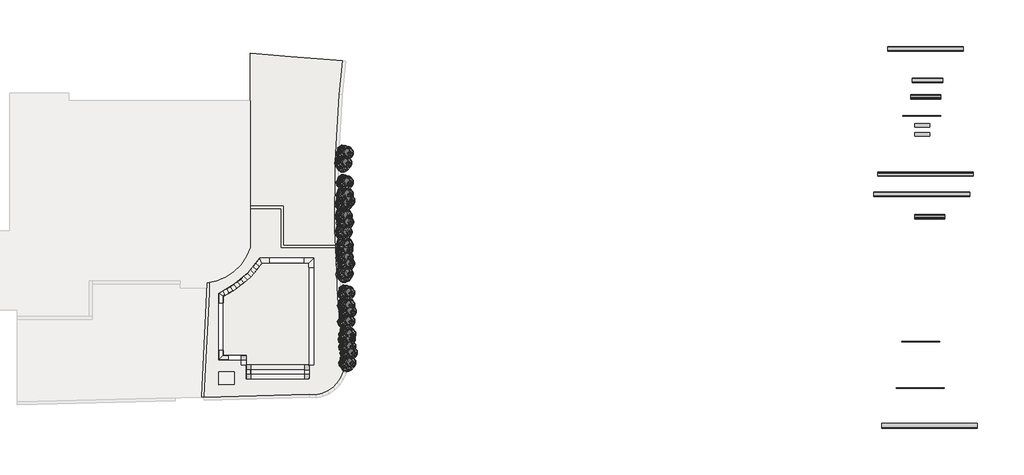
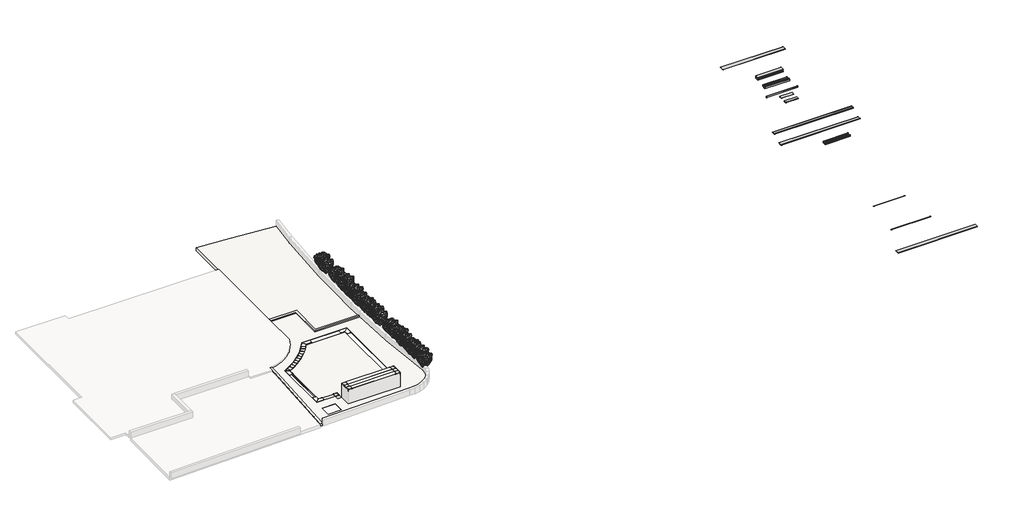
# One storey, part 2 of 2: 36 slabs, 23 geographic elements, 22 proxies.
"""IFC4 building model written with IfcOpenShell, lengths in millimetres."""

from ifc_helpers import new_model, si_unit, point, frame, frame_2d, origin, place, context, project, spatial, polyline, circle_curve, trimmed, segment, composite_curve, outline, extrude, transform, mapped, element, save
from components import generic_models_fd3dc37b, generic_models_5b7ab967, generic_models_2f38e3b8, generic_models_71dcb820, generic_models_0cd6d4ad, generic_models_4fe02839, generic_models_60fd4de7, generic_models_51e0f152, generic_models_03d70148, generic_models_17735d4e, generic_models_f22ee03e, generic_models_8f0458ef, generic_models_db3a6eff, generic_models_d2bb3819, generic_models_d1a6618e, generic_models_a93da772, enscape_assetdefinition_bush_4_enscape_assetdefinition_bush_55d6cc23, slab_9a2c1d77, slab_ec1b78f0, slab_49bdcff0, slab_60ad5168, slab_b6999f09, slab_72731314, slab_92a56c09, slab_0bdd3b43, slab_b8a3eb35, slab_b0dec1d6, slab_325f490a, slab_ac410272, slab_8398dfb0, slab_20f1a7c6

model = new_model("IFC4")

# Units and contexts
model_context = context("Model", 3, world=origin())
ifc_project = project(units=[si_unit("LENGTHUNIT", "METRE", prefix="MILLI")], contexts=[model_context])

# Site, building, storey
site = spatial("IfcSite", under=ifc_project)
building = spatial("IfcBuilding", under=site)
storey = spatial("IfcBuildingStorey", under=building, Name="1_NPlaya", Elevation=0.0)

# Proxies
placement = place(None, origin())
generic_models_shape = generic_models_fd3dc37b(model_context)
element("IfcBuildingElementProxy", 1, Name="ROSA GRES_DL1 (corte) : Pieza DL1_Serena_Ocra_Anti-Slip", ObjectType="ROSA GRES_DL1 (corte) : Pieza DL1_Serena_Ocra_Anti-Slip", at=placement, inside=storey, context=model_context, shape_type="MappedRepresentation", body=[
    mapped(generic_models_shape, transform((5141.0895909, 7278.3154249, -38.0), x_axis=(0.0, 1.0, 0.0), y_axis=(-1.0, 0.0, 0.0), z_axis=(0.0, 0.0, 1.0))),
])
element("IfcBuildingElementProxy", 2, Name="ROSA GRES_DL1 (corte) : Pieza DL1_Serena_Ocra_Anti-Slip", ObjectType="ROSA GRES_DL1 (corte) : Pieza DL1_Serena_Ocra_Anti-Slip", at=placement, inside=storey, context=model_context, shape_type="MappedRepresentation", body=[
    mapped(generic_models_shape, transform((5449.9020909, 6945.0654249, 1162.0), x_axis=(-1.0, 0.0, 0.0), y_axis=(0.0, -1.0, 0.0), z_axis=(0.0, 0.0, 1.0))),
])
element("IfcBuildingElementProxy", 3, Name="ROSA GRES_DL1 (corte) : Pieza DL1_Serena_Ocra_Anti-Slip", ObjectType="ROSA GRES_DL1 (corte) : Pieza DL1_Serena_Ocra_Anti-Slip", at=placement, inside=storey, context=model_context, shape_type="MappedRepresentation", body=[
    mapped(generic_models_shape, transform((5132.8708409, 6362.1965187, 1162.0), x_axis=(0.0, -1.0, 0.0), y_axis=(1.0, 0.0, 0.0), z_axis=(0.0, 0.0, 1.0))),
])
generic_models_2_shape = generic_models_5b7ab967(model_context)
element("IfcBuildingElementProxy", 4, Name="ROSA GRES_DL1 (corte) : Pieza DL1_Serena_Ocra_Anti-Slip", ObjectType="ROSA GRES_DL1 (corte) : Pieza DL1_Serena_Ocra_Anti-Slip", at=placement, inside=storey, context=model_context, shape_type="MappedRepresentation", body=[
    mapped(generic_models_2_shape, transform((8973.6520909, 6945.0654249, 1162.0), x_axis=(1.0, 0.0, 0.0), y_axis=(0.0, 1.0, 0.0), z_axis=(0.0, 0.0, 1.0))),
])
element("IfcBuildingElementProxy", 5, Name="ROSA GRES_DL1 (corte) : Pieza DL1_Serena_Ocra_Anti-Slip", ObjectType="ROSA GRES_DL1 (corte) : Pieza DL1_Serena_Ocra_Anti-Slip", at=placement, inside=storey, context=model_context, shape_type="MappedRepresentation", body=[
    mapped(generic_models_2_shape, transform((9290.3708409, 6362.0402687, 1162.0), x_axis=(0.0, -1.0, 0.0), y_axis=(1.0, 0.0, 0.0), z_axis=(0.0, 0.0, 1.0))),
])
generic_models_3_shape = generic_models_2f38e3b8(model_context)
element("IfcBuildingElementProxy", 6, Name="ROSA GRES_115 : Pieza 115_Serena_Ocra_Anti-Slip", ObjectType="ROSA GRES_115 : Pieza 115_Serena_Ocra_Anti-Slip", at=placement, inside=storey, context=model_context, shape_type="MappedRepresentation", body=[
    mapped(generic_models_3_shape, transform((5101.5895909, 8835.7187061, -240.0), x_axis=(1.0, 0.0, 0.0), y_axis=(0.0, 1.0, 0.0), z_axis=(0.0, 0.0, 1.0))),
])
generic_models_4_shape = generic_models_71dcb820(model_context)
element("IfcBuildingElementProxy", 7, Name="ROSA GRES_040A : Pieza 040A_Serena_Ocra_Anti-Slip", ObjectType="ROSA GRES_040A : Pieza 040A_Serena_Ocra_Anti-Slip", at=placement, inside=storey, context=model_context, shape_type="MappedRepresentation", body=[
    mapped(generic_models_4_shape, transform((9282.0048636, 6945.2216749, 1162.0), x_axis=(0.0, 1.0, 0.0), y_axis=(1.0, 0.0, 0.0), z_axis=(0.0, 0.0, -1.0))),
])
element("IfcBuildingElementProxy", 8, Name="ROSA GRES_040A : Pieza 040A_Serena_Ocra_Anti-Slip", ObjectType="ROSA GRES_040A : Pieza 040A_Serena_Ocra_Anti-Slip", at=placement, inside=storey, context=model_context, shape_type="MappedRepresentation", body=[
    mapped(generic_models_4_shape, transform((5133.1118181, 6045.0910052, 1162.0), x_axis=(0.0, -1.0, 0.0), y_axis=(-1.0, 0.0, 0.0), z_axis=(0.0, 0.0, -1.0))),
])
generic_models_5_shape = generic_models_0cd6d4ad(model_context)
element("IfcBuildingElementProxy", 9, Name="ROSA GRES_040A : Pieza 040A_Serena_Ocra_Anti-Slip", ObjectType="ROSA GRES_040A : Pieza 040A_Serena_Ocra_Anti-Slip", at=placement, inside=storey, context=model_context, shape_type="MappedRepresentation", body=[
    mapped(generic_models_5_shape, transform((5133.4243181, 6945.2216749, 1162.0), x_axis=(0.0, 1.0, 0.0), y_axis=(1.0, 0.0, 0.0), z_axis=(0.0, 0.0, -1.0))),
])
element("IfcBuildingElementProxy", 10, Name="ROSA GRES_040A : Pieza 040A_Serena_Ocra_Anti-Slip", ObjectType="ROSA GRES_040A : Pieza 040A_Serena_Ocra_Anti-Slip", at=placement, inside=storey, context=model_context, shape_type="MappedRepresentation", body=[
    mapped(generic_models_5_shape, transform((9282.0048636, 6045.0244249, 1162.0), x_axis=(0.0, -1.0, 0.0), y_axis=(-1.0, 0.0, 0.0), z_axis=(0.0, 0.0, -1.0))),
])
generic_models_6_shape = generic_models_4fe02839(model_context)
element("IfcBuildingElementProxy", 11, Name="Muestra 2.5m 138 : Muestra 2.5m 138", ObjectType="Muestra 2.5m 138 : Muestra 2.5m 138", at=placement, inside=storey, context=model_context, shape_type="MappedRepresentation", body=[
    mapped(generic_models_6_shape, transform((-95192.9622892, 18777.7075668, 0.0), x_axis=(1.0, 0.0, 0.0), y_axis=(0.0, 1.0, 0.0), z_axis=(0.0, 0.0, 1.0))),
])
generic_models_7_shape = generic_models_60fd4de7(model_context)
element("IfcBuildingElementProxy", 12, Name="Muestra 3.16m 183 : Muestra 3.16m 183", ObjectType="Muestra 3.16m 183 : Muestra 3.16m 183", at=placement, inside=storey, context=model_context, shape_type="MappedRepresentation", body=[
    mapped(generic_models_7_shape, transform((-94776.7446036, 18571.6673946, 0.0), x_axis=(1.0, 0.0, 0.0), y_axis=(0.0, 1.0, 0.0), z_axis=(0.0, 0.0, 1.0))),
])
generic_models_8_shape = generic_models_51e0f152(model_context)
element("IfcBuildingElementProxy", 13, Name="Muestra 1.96m RS941 : Muestra 1.96m RS941", ObjectType="Muestra 1.96m RS941 : Muestra 1.96m RS941", at=placement, inside=storey, context=model_context, shape_type="MappedRepresentation", body=[
    mapped(generic_models_8_shape, transform((-116088.8609181, 16758.4731612, 0.0), x_axis=(1.0, 0.0, 0.0), y_axis=(0.0, 1.0, 0.0), z_axis=(0.0, 0.0, 1.0))),
])
generic_models_9_shape = generic_models_03d70148(model_context)
element("IfcBuildingElementProxy", 14, Name="Muestra 6.32m J62 Anti-Slip : Muestra 6.32m J62 Anti-Slip", ObjectType="Muestra 6.32m J62 Anti-Slip : Muestra 6.32m J62 Anti-Slip", at=placement, inside=storey, context=model_context, shape_type="MappedRepresentation", body=[
    mapped(generic_models_9_shape, transform((-130690.1380828, 15876.9453792, 0.0), x_axis=(1.0, 0.0, 0.0), y_axis=(0.0, 1.0, 0.0), z_axis=(0.0, 0.0, 1.0))),
])
generic_models_10_shape = generic_models_17735d4e(model_context)
element("IfcBuildingElementProxy", 15, Name="Muestra 6.32m I25 Anti-Slip : Muestra 6.32m I25 Anti-Slip", ObjectType="Muestra 6.32m I25 Anti-Slip : Muestra 6.32m I25 Anti-Slip", at=placement, inside=storey, context=model_context, shape_type="MappedRepresentation", body=[
    mapped(generic_models_10_shape, transform((0.0, 0.0, 0.0), x_axis=(1.0, 0.0, 0.0), y_axis=(0.0, 1.0, 0.0), z_axis=(0.0, 0.0, 1.0))),
])
generic_models_11_shape = generic_models_f22ee03e(model_context)
element("IfcBuildingElementProxy", 16, Name="Muestra 1.00ML_245 V2 Ac-Pl-Ca-Sa : Muestra 1.00ML_245 V2 Ac-Pl-Ca-Sa", ObjectType="Muestra 1.00ML_245 V2 Ac-Pl-Ca-Sa : Muestra 1.00ML_245 V2 Ac-Pl-Ca-Sa", at=placement, inside=storey, context=model_context, shape_type="MappedRepresentation", body=[
    mapped(generic_models_11_shape, transform((0.0, -1000.0, 0.0), x_axis=(1.0, 0.0, 0.0), y_axis=(0.0, 1.0, 0.0), z_axis=(0.0, 0.0, 1.0))),
])
element("IfcBuildingElementProxy", 17, Name="Muestra 1.00m-50piezas_245 V2 Blanco : Muestra 1.00m-50piezas_245 V2 Blanco", ObjectType="Muestra 1.00m-50piezas_245 V2 Blanco : Muestra 1.00m-50piezas_245 V2 Blanco", at=placement, inside=storey, context=model_context, shape_type="MappedRepresentation", body=[
    mapped(generic_models_11_shape, transform((0.0, -400.0, 0.0), x_axis=(1.0, 0.0, 0.0), y_axis=(0.0, 1.0, 0.0), z_axis=(0.0, 0.0, 1.0))),
])
generic_models_12_shape = generic_models_8f0458ef(model_context)
element("IfcBuildingElementProxy", 18, Name="Muestra 2.5m 971 : Muestra 2.5m 971", ObjectType="Muestra 2.5m 971 : Muestra 2.5m 971", at=placement, inside=storey, context=model_context, shape_type="MappedRepresentation", body=[
    mapped(generic_models_12_shape, transform((0.0, -1200.0, 0.0), x_axis=(1.0, 0.0, 0.0), y_axis=(0.0, 1.0, 0.0), z_axis=(0.0, 0.0, 1.0))),
])
generic_models_13_shape = generic_models_db3a6eff(model_context)
element("IfcBuildingElementProxy", 19, Name="Muestra 1.96m RS931 : Muestra 1.96m RS931", ObjectType="Muestra 1.96m RS931 : Muestra 1.96m RS931", at=placement, inside=storey, context=model_context, shape_type="MappedRepresentation", body=[
    mapped(generic_models_13_shape, transform((0.0, -3500.0, 0.0), x_axis=(1.0, 0.0, 0.0), y_axis=(0.0, 1.0, 0.0), z_axis=(0.0, 0.0, 1.0))),
])
generic_models_14_shape = generic_models_d2bb3819(model_context)
element("IfcBuildingElementProxy", 20, Name="Muestra 2.01m RS951 : Muestra 2.01m RS951", ObjectType="Muestra 2.01m RS951 : Muestra 2.01m RS951", at=placement, inside=storey, context=model_context, shape_type="MappedRepresentation", body=[
    mapped(generic_models_14_shape, transform((-84887.7679404, -236.866949, 0.0), x_axis=(1.0, 0.0, 0.0), y_axis=(0.0, 1.0, 0.0), z_axis=(0.0, 0.0, 1.0))),
])
generic_models_15_shape = generic_models_d1a6618e(model_context)
element("IfcBuildingElementProxy", 21, Name="Muestra 6.32m S62 : Muestra 6.32m S62", ObjectType="Muestra 6.32m S62 : Muestra 6.32m S62", at=placement, inside=storey, context=model_context, shape_type="MappedRepresentation", body=[
    mapped(generic_models_15_shape, transform((-53246.3912496, -87.5265775, 0.0), x_axis=(1.0, 0.0, 0.0), y_axis=(0.0, 1.0, 0.0), z_axis=(0.0, 0.0, 1.0))),
])
generic_models_16_shape = generic_models_a93da772(model_context)
element("IfcBuildingElementProxy", 22, Name="Muestra_5 m R49 : Muestra_5 m R49", ObjectType="Muestra_5 m R49 : Muestra_5 m R49", at=placement, inside=storey, context=model_context, shape_type="MappedRepresentation", body=[
    mapped(generic_models_16_shape, transform((-23234.6440274, -19.0994819, 0.0), x_axis=(1.0, 0.0, 0.0), y_axis=(0.0, 1.0, 0.0), z_axis=(0.0, 0.0, 1.0))),
])

# Geographic elements
enscape_assetdefinition_bush_4_enscape_assetdefinition_bush_shape = enscape_assetdefinition_bush_4_enscape_assetdefinition_bush_55d6cc23(model_context)
element("IfcGeographicElement", 23, ObjectType="Enscape AssetDefinition - Bush 4 : Enscape AssetDefinition - Bush 4", at=placement, inside=storey, context=model_context, shape_type="MappedRepresentation", body=[
    mapped(enscape_assetdefinition_bush_4_enscape_assetdefinition_bush_shape, transform((11775.4026239, 8950.0772817, 300.0), x_axis=(1.0, 0.0, 0.0), y_axis=(0.0, 1.0, 0.0), z_axis=(0.0, 0.0, 1.0))),
])
element("IfcGeographicElement", 24, ObjectType="Enscape AssetDefinition - Bush 4 : Enscape AssetDefinition - Bush 4", at=placement, inside=storey, context=model_context, shape_type="MappedRepresentation", body=[
    mapped(enscape_assetdefinition_bush_4_enscape_assetdefinition_bush_shape, transform((11748.8573233, 8641.0772817, 300.0), x_axis=(1.0, 0.0, 0.0), y_axis=(0.0, 1.0, 0.0), z_axis=(0.0, 0.0, 1.0))),
])
element("IfcGeographicElement", 25, ObjectType="Enscape AssetDefinition - Bush 4 : Enscape AssetDefinition - Bush 4", at=placement, inside=storey, context=model_context, shape_type="MappedRepresentation", body=[
    mapped(enscape_assetdefinition_bush_4_enscape_assetdefinition_bush_shape, transform((11775.4026239, 8147.2903049, 300.0), x_axis=(1.0, 0.0, 0.0), y_axis=(0.0, 1.0, 0.0), z_axis=(0.0, 0.0, 1.0))),
])
element("IfcGeographicElement", 26, ObjectType="Enscape AssetDefinition - Bush 4 : Enscape AssetDefinition - Bush 4", at=placement, inside=storey, context=model_context, shape_type="MappedRepresentation", body=[
    mapped(enscape_assetdefinition_bush_4_enscape_assetdefinition_bush_shape, transform((11873.7103606, 7732.0772817, 300.0), x_axis=(1.0, 0.0, 0.0), y_axis=(0.0, 1.0, 0.0), z_axis=(0.0, 0.0, 1.0))),
])
element("IfcGeographicElement", 27, ObjectType="Enscape AssetDefinition - Bush 4 : Enscape AssetDefinition - Bush 4", at=placement, inside=storey, context=model_context, shape_type="MappedRepresentation", body=[
    mapped(enscape_assetdefinition_bush_4_enscape_assetdefinition_bush_shape, transform((11775.4026239, 7072.4625106, 300.0), x_axis=(1.0, 0.0, 0.0), y_axis=(0.0, 1.0, 0.0), z_axis=(0.0, 0.0, 1.0))),
])
element("IfcGeographicElement", 28, ObjectType="Enscape AssetDefinition - Bush 4 : Enscape AssetDefinition - Bush 4", at=placement, inside=storey, context=model_context, shape_type="MappedRepresentation", body=[
    mapped(enscape_assetdefinition_bush_4_enscape_assetdefinition_bush_shape, transform((11708.5133134, 11685.7220794, 300.0), x_axis=(1.0, 0.0, 0.0), y_axis=(0.0, 1.0, 0.0), z_axis=(0.0, 0.0, 1.0))),
])
element("IfcGeographicElement", 29, ObjectType="Enscape AssetDefinition - Bush 4 : Enscape AssetDefinition - Bush 4", at=placement, inside=storey, context=model_context, shape_type="MappedRepresentation", body=[
    mapped(enscape_assetdefinition_bush_4_enscape_assetdefinition_bush_shape, transform((11708.5133134, 10882.9351026, 300.0), x_axis=(1.0, 0.0, 0.0), y_axis=(0.0, 1.0, 0.0), z_axis=(0.0, 0.0, 1.0))),
])
element("IfcGeographicElement", 30, ObjectType="Enscape AssetDefinition - Bush 4 : Enscape AssetDefinition - Bush 4", at=placement, inside=storey, context=model_context, shape_type="MappedRepresentation", body=[
    mapped(enscape_assetdefinition_bush_4_enscape_assetdefinition_bush_shape, transform((11806.8210501, 10467.7220794, 300.0), x_axis=(1.0, 0.0, 0.0), y_axis=(0.0, 1.0, 0.0), z_axis=(0.0, 0.0, 1.0))),
])
element("IfcGeographicElement", 31, ObjectType="Enscape AssetDefinition - Bush 4 : Enscape AssetDefinition - Bush 4", at=placement, inside=storey, context=model_context, shape_type="MappedRepresentation", body=[
    mapped(enscape_assetdefinition_bush_4_enscape_assetdefinition_bush_shape, transform((11708.5133134, 9808.1073084, 300.0), x_axis=(1.0, 0.0, 0.0), y_axis=(0.0, 1.0, 0.0), z_axis=(0.0, 0.0, 1.0))),
])
element("IfcGeographicElement", 32, ObjectType="Enscape AssetDefinition - Bush 4 : Enscape AssetDefinition - Bush 4", at=placement, inside=storey, context=model_context, shape_type="MappedRepresentation", body=[
    mapped(enscape_assetdefinition_bush_4_enscape_assetdefinition_bush_shape, transform((11604.0352976, 14845.2772817, 300.0), x_axis=(1.0, 0.0, 0.0), y_axis=(0.0, 1.0, 0.0), z_axis=(0.0, 0.0, 1.0))),
])
element("IfcGeographicElement", 33, ObjectType="Enscape AssetDefinition - Bush 4 : Enscape AssetDefinition - Bush 4", at=placement, inside=storey, context=model_context, shape_type="MappedRepresentation", body=[
    mapped(enscape_assetdefinition_bush_4_enscape_assetdefinition_bush_shape, transform((11577.489997, 14536.2772817, 300.0), x_axis=(1.0, 0.0, 0.0), y_axis=(0.0, 1.0, 0.0), z_axis=(0.0, 0.0, 1.0))),
])
element("IfcGeographicElement", 34, ObjectType="Enscape AssetDefinition - Bush 4 : Enscape AssetDefinition - Bush 4", at=placement, inside=storey, context=model_context, shape_type="MappedRepresentation", body=[
    mapped(enscape_assetdefinition_bush_4_enscape_assetdefinition_bush_shape, transform((11604.0352976, 14042.4903049, 300.0), x_axis=(1.0, 0.0, 0.0), y_axis=(0.0, 1.0, 0.0), z_axis=(0.0, 0.0, 1.0))),
])
element("IfcGeographicElement", 35, ObjectType="Enscape AssetDefinition - Bush 4 : Enscape AssetDefinition - Bush 4", at=placement, inside=storey, context=model_context, shape_type="MappedRepresentation", body=[
    mapped(enscape_assetdefinition_bush_4_enscape_assetdefinition_bush_shape, transform((11702.3430343, 13627.2772817, 300.0), x_axis=(1.0, 0.0, 0.0), y_axis=(0.0, 1.0, 0.0), z_axis=(0.0, 0.0, 1.0))),
])
element("IfcGeographicElement", 36, ObjectType="Enscape AssetDefinition - Bush 4 : Enscape AssetDefinition - Bush 4", at=placement, inside=storey, context=model_context, shape_type="MappedRepresentation", body=[
    mapped(enscape_assetdefinition_bush_4_enscape_assetdefinition_bush_shape, transform((11604.0352976, 12967.6625106, 300.0), x_axis=(1.0, 0.0, 0.0), y_axis=(0.0, 1.0, 0.0), z_axis=(0.0, 0.0, 1.0))),
])
element("IfcGeographicElement", 37, ObjectType="Enscape AssetDefinition - Bush 4 : Enscape AssetDefinition - Bush 4", at=placement, inside=storey, context=model_context, shape_type="MappedRepresentation", body=[
    mapped(enscape_assetdefinition_bush_4_enscape_assetdefinition_bush_shape, transform((11537.1459871, 17580.9220794, 300.0), x_axis=(1.0, 0.0, 0.0), y_axis=(0.0, 1.0, 0.0), z_axis=(0.0, 0.0, 1.0))),
])
element("IfcGeographicElement", 38, ObjectType="Enscape AssetDefinition - Bush 4 : Enscape AssetDefinition - Bush 4", at=placement, inside=storey, context=model_context, shape_type="MappedRepresentation", body=[
    mapped(enscape_assetdefinition_bush_4_enscape_assetdefinition_bush_shape, transform((11537.1459871, 16778.1351026, 300.0), x_axis=(1.0, 0.0, 0.0), y_axis=(0.0, 1.0, 0.0), z_axis=(0.0, 0.0, 1.0))),
])
element("IfcGeographicElement", 39, ObjectType="Enscape AssetDefinition - Bush 4 : Enscape AssetDefinition - Bush 4", at=placement, inside=storey, context=model_context, shape_type="MappedRepresentation", body=[
    mapped(enscape_assetdefinition_bush_4_enscape_assetdefinition_bush_shape, transform((11635.4537238, 16362.9220794, 300.0), x_axis=(1.0, 0.0, 0.0), y_axis=(0.0, 1.0, 0.0), z_axis=(0.0, 0.0, 1.0))),
])
element("IfcGeographicElement", 40, ObjectType="Enscape AssetDefinition - Bush 4 : Enscape AssetDefinition - Bush 4", at=placement, inside=storey, context=model_context, shape_type="MappedRepresentation", body=[
    mapped(enscape_assetdefinition_bush_4_enscape_assetdefinition_bush_shape, transform((11537.1459871, 15703.3073084, 300.0), x_axis=(1.0, 0.0, 0.0), y_axis=(0.0, 1.0, 0.0), z_axis=(0.0, 0.0, 1.0))),
])
element("IfcGeographicElement", 41, ObjectType="Enscape AssetDefinition - Bush 4 : Enscape AssetDefinition - Bush 4", at=placement, inside=storey, context=model_context, shape_type="MappedRepresentation", body=[
    mapped(enscape_assetdefinition_bush_4_enscape_assetdefinition_bush_shape, transform((11615.7207398, 18984.8566042, 300.0), x_axis=(1.0, 0.0, 0.0), y_axis=(0.0, 1.0, 0.0), z_axis=(0.0, 0.0, 1.0))),
])
element("IfcGeographicElement", 42, ObjectType="Enscape AssetDefinition - Bush 4 : Enscape AssetDefinition - Bush 4", at=placement, inside=storey, context=model_context, shape_type="MappedRepresentation", body=[
    mapped(enscape_assetdefinition_bush_4_enscape_assetdefinition_bush_shape, transform((11615.7207398, 18182.0696274, 300.0), x_axis=(1.0, 0.0, 0.0), y_axis=(0.0, 1.0, 0.0), z_axis=(0.0, 0.0, 1.0))),
])
element("IfcGeographicElement", 43, ObjectType="Enscape AssetDefinition - Bush 4 : Enscape AssetDefinition - Bush 4", at=placement, inside=storey, context=model_context, shape_type="MappedRepresentation", body=[
    mapped(enscape_assetdefinition_bush_4_enscape_assetdefinition_bush_shape, transform((11714.0284765, 17766.8566042, 300.0), x_axis=(1.0, 0.0, 0.0), y_axis=(0.0, 1.0, 0.0), z_axis=(0.0, 0.0, 1.0))),
])
element("IfcGeographicElement", 44, ObjectType="Enscape AssetDefinition - Bush 4 : Enscape AssetDefinition - Bush 4", at=placement, inside=storey, context=model_context, shape_type="MappedRepresentation", body=[
    mapped(enscape_assetdefinition_bush_4_enscape_assetdefinition_bush_shape, transform((11609.5504607, 20926.4118065, 300.0), x_axis=(1.0, 0.0, 0.0), y_axis=(0.0, 1.0, 0.0), z_axis=(0.0, 0.0, 1.0))),
])
element("IfcGeographicElement", 45, ObjectType="Enscape AssetDefinition - Bush 4 : Enscape AssetDefinition - Bush 4", at=placement, inside=storey, context=model_context, shape_type="MappedRepresentation", body=[
    mapped(enscape_assetdefinition_bush_4_enscape_assetdefinition_bush_shape, transform((11511.242724, 20266.7970354, 300.0), x_axis=(1.0, 0.0, 0.0), y_axis=(0.0, 1.0, 0.0), z_axis=(0.0, 0.0, 1.0))),
])

# Slabs
element("IfcSlab", 46, ObjectType="Pieza 316_Patrón 1/3_Serena_Ocra_Anti-Slip", at=placement, inside=storey, context=model_context, shape_type="SweptSolid", body=[
    extrude(outline(polyline([(11295.3154249, -1909.3461436), (8795.3154249, -1209.3461436), (8795.3154249, -1200.0), (11295.3154249, -1900.0), (11295.3154249, -1909.3461436)])), frame((5171.1161794, 0.0, 0.0), z_axis=(1.0, 0.0, 0.0), x_axis=(0.0, 1.0, 0.0)), (0.0, 0.0, 1.0), 4080.9468229),
])
element("IfcSlab", 47, ObjectType="Pieza 316_Patrón 1/3_Serena_Ocra_Anti-Slip", at=placement, inside=storey, context=model_context, shape_type="SweptSolid", body=[
    extrude(outline(polyline([(12476.8193083, -1709.1280336), (11295.3154249, -1909.1280336), (11295.3154249, -1900.0), (12476.8193083, -1700.0), (12476.8193083, -1709.1280336)])), frame((5171.1161794, 0.0, 0.0), z_axis=(1.0, 0.0, 0.0), x_axis=(0.0, 1.0, 0.0)), (0.0, 0.0, 1.0), 4079.9734114),
])
element("IfcSlab", 48, ObjectType="Pieza 316_Patrón 1/3_Serena_Ocra_Anti-Slip", at=placement, inside=storey, context=model_context, shape_type="SweptSolid", body=[
    extrude(outline(polyline([(8795.3154249, -1209.0326698), (7622.744722, -1109.0326698), (7622.744722, -1100.0), (8795.3154249, -1200.0), (8795.3154249, -1209.0326698)])), frame((5171.1161794, 0.0, 0.0), z_axis=(1.0, 0.0, 0.0), x_axis=(0.0, 1.0, 0.0)), (0.0, 0.0, 1.0), 4080.9468229),
])
element("IfcSlab", 49, ObjectType="Pieza 316_Patrón 1/3_Serena_Ocra_Anti-Slip", at=placement, inside=storey, context=model_context, shape_type="SweptSolid", body=[
    extrude(outline(composite_curve([segment(trimmed(circle_curve(frame_2d((613.1221589, 17582.8458574)), 6799.0156299), [point((5175.5760588, 12541.9503074))], [point((6170.0422161, 13665.2888364))], True, "CARTESIAN"), True, "CONTINUOUS"), segment(polyline([(6170.0422161, 13665.2888364), (9252.0630023, 13665.2888364), (9252.0630023, 12541.9503074), (5175.5760588, 12541.9503074)]), True, "CONTINUOUS")], self_intersect=False)), frame((0.0, 0.0, -209.0), z_axis=(0.0, 0.0, 1.0), x_axis=(1.0, 0.0, 0.0)), (0.0, 0.0, 1.0), 9.0),
])
element("IfcSlab", 50, ObjectType="Pieza 316_Patrón 1/3_Serena_Ocra_Anti-Slip", at=placement, inside=storey, context=model_context, shape_type="SweptSolid", body=[
    extrude(outline(composite_curve([segment(trimmed(circle_curve(frame_2d((613.1221589, 17582.8458574)), 6799.0156299), [point((3671.1161794, 11510.3433991))], [point((5101.0895909, 12475.5215222))], True, "CARTESIAN"), True, "CONTINUOUS"), segment(polyline([(5101.0895909, 12475.5215222), (5101.0895909, 8835.3154249), (3901.0895909, 8835.3154249), (3901.0895909, 7595.3154249), (3671.1161794, 7595.3154249), (3671.1161794, 11510.3433991)]), True, "CONTINUOUS")], self_intersect=False)), frame((0.0, 0.0, -209.0), z_axis=(0.0, 0.0, 1.0), x_axis=(1.0, 0.0, 0.0)), (0.0, 0.0, 1.0), 9.0),
])
element("IfcSlab", 51, ObjectType="Pieza 316_Patrón 1/3_Serena_Ocra_Anti-Slip", at=placement, inside=storey, context=model_context, shape_type="SweptSolid", body=[
    extrude(outline(polyline([(4201.0895909, 7595.3154249), (3971.1161794, 7595.3154249), (3971.1161794, 8795.3154249), (4201.0895909, 8795.3154249), (4201.0895909, 7595.3154249)])), frame((0.0, 0.0, -409.0), z_axis=(0.0, 0.0, 1.0), x_axis=(1.0, 0.0, 0.0)), (0.0, 0.0, 1.0), 9.0),
])
element("IfcSlab", 52, ObjectType="Pieza 316_Patrón 1/3_Serena_Ocra_Anti-Slip", at=placement, inside=storey, context=model_context, shape_type="SweptSolid", body=[
    extrude(outline(polyline([(4501.0895909, 7595.3154249), (4271.1161794, 7595.3154249), (4271.1161794, 8795.3154249), (4501.0895909, 8795.3154249), (4501.0895909, 7595.3154249)])), frame((0.0, 0.0, -589.0), z_axis=(0.0, 0.0, 1.0), x_axis=(1.0, 0.0, 0.0)), (0.0, 0.0, 1.0), 9.0),
])
element("IfcSlab", 53, ObjectType="Pieza 316_Patrón 1/3_Serena_Ocra_Anti-Slip", at=placement, inside=storey, context=model_context, shape_type="SweptSolid", body=[
    extrude(outline(polyline([(4801.0895909, 7595.3154249), (4571.1161794, 7595.3154249), (4571.1161794, 8795.3154249), (4801.0895909, 8795.3154249), (4801.0895909, 7595.3154249)])), frame((0.0, 0.0, -769.0), z_axis=(0.0, 0.0, 1.0), x_axis=(1.0, 0.0, 0.0)), (0.0, 0.0, 1.0), 9.0),
])
element("IfcSlab", 54, ObjectType="Pieza 316_Patrón 1/3_Serena_Ocra_Anti-Slip", at=placement, inside=storey, context=model_context, shape_type="SweptSolid", body=[
    extrude(outline(polyline([(5101.0895909, 7595.3154249), (4871.1161794, 7595.3154249), (4871.1161794, 8795.3154249), (5101.0895909, 8795.3154249), (5101.0895909, 7595.3154249)])), frame((0.0, 0.0, -949.0), z_axis=(0.0, 0.0, 1.0), x_axis=(1.0, 0.0, 0.0)), (0.0, 0.0, 1.0), 9.0),
])
element("IfcSlab", 55, ObjectType="Pieza 316_Patrón 1/3_Serena_Ocra_Anti-Slip", at=placement, inside=storey, context=model_context, shape_type="SweptSolid", body=[
    extrude(outline(composite_curve([segment(polyline([(5416.5251878, 17295.3154249), (7448.909616, 17295.3154249), (7448.909616, 14695.3154249), (11048.7150806, 14695.3154249), (11194.0075407, 11402.6069808), (11609.0471765, 6974.5171476), (11537.7836462, 6483.0691838), (11384.2153032, 6102.5350467), (11164.241546, 5756.6895285), (10873.7363006, 5460.5282715), (10523.2970761, 5226.2672677), (10148.493797, 5066.9953549), (9740.0855109, 4992.2851621), (9299.7412419, 4995.2188977), (2356.1904185, 4826.3324129), (2690.8409342, 11695.3154249), (2690.8409342, 12395.3154249)]), True, "CONTINUOUS"), segment(trimmed(circle_curve(frame_2d((2192.888818, 15750.5056716)), 3391.9401382), [point((2690.8409342, 12395.3154249))], [point((5416.5251878, 14695.3154249))], True, "CARTESIAN"), True, "CONTINUOUS"), segment(polyline([(5416.5251878, 14695.3154249), (5416.5251878, 17295.3154249)]), True, "CONTINUOUS")], self_intersect=False), holes=[composite_curve([segment(polyline([(3323.8395909, 7278.3154249), (4824.0895909, 7278.3154249), (4824.0895909, 6945.3154249), (5142.0895909, 6945.3154249), (5142.0895909, 6045.3154249), (9282.0895909, 6045.3154249), (9282.0895909, 6945.3154249), (9599.0895909, 6945.3154249), (9599.0895909, 14012.8154249), (6036.2342776, 14012.8154249)]), True, "CONTINUOUS"), segment(trimmed(circle_curve(frame_2d((615.3467775, 17579.5089296)), 6489.0156299), [point((6036.2342776, 14012.8154249))], [point((3323.8395909, 11682.7818268))], False, "CARTESIAN"), True, "CONTINUOUS"), segment(polyline([(3323.8395909, 11682.7818268), (3323.8395909, 7278.3154249)]), True, "CONTINUOUS")], self_intersect=False), polyline([(3323.8395909, 6478.3154249), (3323.8395909, 5650.1049386), (4342.0895909, 5674.8716131), (4342.0895909, 6478.3154249), (3323.8395909, 6478.3154249)])]), frame((0.0, 0.0, -9.0), z_axis=(0.0, 0.0, 1.0), x_axis=(1.0, 0.0, 0.0)), (0.0, 0.0, 1.0), 9.0),
])
element("IfcSlab", 56, ObjectType="GENÉRICO_HIERBA", at=placement, inside=storey, context=model_context, shape_type="SweptSolid", body=[
    extrude(outline(polyline([(11048.6751195, 14695.3154249), (7448.909616, 14695.3154249), (7448.909616, 17295.3154249), (5416.5251878, 17295.3154249), (5416.5251878, 18465.6699421), (5416.5251878, 27541.0740955), (8067.2086037, 27325.4144116), (11518.1342158, 27045.8313171), (11284.207982, 24813.3736167), (11032.9452767, 20346.339186), (10997.8517494, 15870.5514446), (11048.6751195, 14695.3154249)])), frame((0.0, 0.0, -231.0), z_axis=(0.0, 0.0, 1.0), x_axis=(1.0, 0.0, 0.0)), (0.0, 0.0, 1.0), 231.0),
])
element("IfcSlab", 57, ObjectType="GENÉRICO_ARENA", at=placement, inside=storey, context=model_context, shape_type="SweptSolid", body=[
    extrude(outline(polyline([(11042.0811026, 14695.3154249), (7448.909616, 14695.3154249), (7448.909616, 17287.7950059), (5416.5251878, 17287.7950059), (5416.5251878, 17438.1820495), (7598.909616, 17438.1820495), (7598.909616, 14847.7950059), (11042.0811026, 14847.7950059), (11042.0811026, 14695.3154249)])), frame((0.0, 0.0, -131.0), z_axis=(0.0, 0.0, 1.0), x_axis=(1.0, 0.0, 0.0)), (0.0, 0.0, 1.0), 231.0),
])
element("IfcSlab", 58, ObjectType="GENÉRICO_ARENA", at=placement, inside=storey, context=model_context, shape_type="SweptSolid", body=[
    extrude(outline(polyline([(2356.546029, 4833.6316172), (2206.3681183, 4833.6316172), (2541.0186341, 11702.6146292), (2541.0186341, 12395.3154249), (2690.8409342, 12395.3154249), (2690.8409342, 11695.3154249), (2356.546029, 4833.6316172)])), frame((0.0, 0.0, -131.0), z_axis=(0.0, 0.0, 1.0), x_axis=(1.0, 0.0, 0.0)), (0.0, 0.0, 1.0), 231.0),
])
element("IfcSlab", 59, ObjectType="GENÉRICO_AGUA", at=placement, inside=storey, context=model_context, shape_type="SweptSolid", body=[
    extrude(outline(polyline([(3640.8395909, 7595.3154249), (3640.8395909, 11495.3850356), (3976.6471789, 11673.9370974), (4511.978406, 12008.4491743), (4694.191583, 12145.7566518), (4990.9611854, 12369.3885877), (5210.8634377, 12573.5773773), (5430.5445808, 12777.5608574), (5631.6114391, 12999.9145921), (5832.6782975, 13222.2683267), (6013.6006308, 13461.3000696), (6190.4422408, 13694.9404249), (9282.0895909, 13694.9404249), (9282.0895909, 6945.3154249), (5141.0895909, 6945.3154249), (5141.0895909, 7595.3154249), (3640.8395909, 7595.3154249)])), frame((0.0, 0.0, -51.0), z_axis=(0.0, 0.0, 1.0), x_axis=(1.0, 0.0, 0.0)), (0.0, 0.0, 1.0), 1.0),
])
slab_shape = slab_9a2c1d77(model_context)
element("IfcSlab", 60, ObjectType="ROSA GRES_L62 : Pieza L62_Serena_Ocra_Anti-Slip", at=placement, inside=storey, context=model_context, shape_type="MappedRepresentation", body=[
    mapped(slab_shape, transform((5132.8709427, 6632.1965187, 1200.0), x_axis=(0.0, -1.0, 0.0), y_axis=(1.0, 0.0, 0.0), z_axis=(0.0, 0.0, 1.0))),
])
slab_2_shape = slab_ec1b78f0(model_context)
element("IfcSlab", 61, ObjectType="ROSA GRES_L62 : Pieza L62_Serena_Ocra_Anti-Slip", at=placement, inside=storey, context=model_context, shape_type="MappedRepresentation", body=[
    mapped(slab_2_shape, transform((9290.370739, 6632.1965187, 1200.0), x_axis=(0.0, -1.0, 0.0), y_axis=(1.0, 0.0, 0.0), z_axis=(0.0, 0.0, 1.0))),
])
slab_3_shape = slab_49bdcff0(model_context)
element("IfcSlab", 62, ObjectType="ROSA GRES_L62 : Pieza L62_Serena_Ocra_Anti-Slip", at=placement, inside=storey, context=model_context, shape_type="MappedRepresentation", body=[
    mapped(slab_3_shape, transform((8973.7620211, 6045.0654249, 1200.0), x_axis=(-1.0, 0.0, 0.0), y_axis=(0.0, -1.0, 0.0), z_axis=(0.0, 0.0, 1.0))),
])
slab_4_shape = slab_60ad5168(model_context)
element("IfcSlab", 63, ObjectType="ROSA GRES_L62 : Pieza L62_Serena_Ocra_Anti-Slip", at=placement, inside=storey, context=model_context, shape_type="MappedRepresentation", body=[
    mapped(slab_4_shape, transform((8973.8220783, 6945.3154249, 1200.0), x_axis=(-1.0, 0.0, 0.0), y_axis=(0.0, -1.0, 0.0), z_axis=(0.0, 0.0, 1.0))),
])
slab_5_shape = slab_b6999f09(model_context)
element("IfcSlab", 64, ObjectType="ROSA GRES_L62 (corte) : Pieza L62_Serena_Ocra_Anti-Slip", at=placement, inside=storey, context=model_context, shape_type="MappedRepresentation", body=[
    mapped(slab_5_shape, transform((3950.8395909, 7595.3154249, -14.0), x_axis=(-1.0, 0.0, 0.0), y_axis=(0.0, -1.0, 0.0), z_axis=(0.0, 0.0, 1.0))),
])
element("IfcSlab", 65, ObjectType="ROSA GRES_L62 (corte) : Pieza L62_Serena_Ocra_Anti-Slip", at=placement, inside=storey, context=model_context, shape_type="MappedRepresentation", body=[
    mapped(slab_5_shape, transform((8972.6861397, 13695.3154249, -14.0), x_axis=(1.0, 0.0, 0.0), y_axis=(0.0, 1.0, 0.0), z_axis=(0.0, 0.0, 1.0))),
])
slab_6_shape = slab_72731314(model_context)
element("IfcSlab", 66, ObjectType="ROSA GRES_L62 (corte) : Pieza L62_Serena_Ocra_Anti-Slip", at=placement, inside=storey, context=model_context, shape_type="MappedRepresentation", body=[
    mapped(slab_6_shape, transform((3641.0895909, 7903.8154249, -14.0), x_axis=(0.0, -1.0, 0.0), y_axis=(1.0, 0.0, 0.0), z_axis=(0.0, 0.0, 1.0))),
])
element("IfcSlab", 67, ObjectType="ROSA GRES_L62 (corte) : Pieza L62_Serena_Ocra_Anti-Slip", at=placement, inside=storey, context=model_context, shape_type="MappedRepresentation", body=[
    mapped(slab_6_shape, transform((9281.1861397, 13386.8154249, -14.0), x_axis=(0.0, 1.0, 0.0), y_axis=(-1.0, 0.0, 0.0), z_axis=(0.0, 0.0, 1.0))),
])
slab_7_shape = slab_92a56c09(model_context)
element("IfcSlab", 68, ObjectType="ROSA GRES_L62 (corte) : Pieza L62_Serena_Ocra_Anti-Slip", at=placement, inside=storey, context=model_context, shape_type="MappedRepresentation", body=[
    mapped(slab_7_shape, transform((3641.0895909, 11060.5014053, -14.0), x_axis=(0.0, 1.0, 0.0), y_axis=(-1.0, 0.0, 0.0), z_axis=(0.0, 0.0, 1.0))),
])
slab_8_shape = slab_0bdd3b43(model_context)
element("IfcSlab", 69, ObjectType="ROSA GRES_L62 (corte) : Pieza L62_Serena_Ocra_Anti-Slip", at=placement, inside=storey, context=model_context, shape_type="MappedRepresentation", body=[
    mapped(slab_8_shape, transform((3738.7526418, 11547.4463283, -14.0), x_axis=(-0.882947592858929, -0.46947156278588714, 0.0), y_axis=(0.46947156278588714, -0.882947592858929, 0.0), z_axis=(0.0, 0.0, 1.0))),
])
slab_9_shape = slab_b8a3eb35(model_context)
element("IfcSlab", 70, ObjectType="ROSA GRES_L62 (corte) : Pieza L62_Serena_Ocra_Anti-Slip", at=placement, inside=storey, context=model_context, shape_type="MappedRepresentation", body=[
    mapped(slab_9_shape, transform((3738.7526418, 11547.4463283, -14.0), x_axis=(0.8829475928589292, 0.46947156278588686, 0.0), y_axis=(-0.46947156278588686, 0.8829475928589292, 0.0), z_axis=(0.0, 0.0, 1.0))),
])
slab_10_shape = slab_b0dec1d6(model_context)
element("IfcSlab", 71, ObjectType="ROSA GRES_L62 (corte) : Pieza L62_Serena_Ocra_Anti-Slip", at=placement, inside=storey, context=model_context, shape_type="MappedRepresentation", body=[
    mapped(slab_10_shape, transform((4257.74911, 11848.3390789, -14.0), x_axis=(-0.848048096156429, -0.5299192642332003, 0.0), y_axis=(0.5299192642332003, -0.848048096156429, 0.0), z_axis=(0.0, 0.0, 1.0))),
])
slab_11_shape = slab_325f490a(model_context)
element("IfcSlab", 72, ObjectType="ROSA GRES_L62 (corte) : Pieza L62_Serena_Ocra_Anti-Slip", at=placement, inside=storey, context=model_context, shape_type="MappedRepresentation", body=[
    mapped(slab_11_shape, transform((4257.74911, 11849.5890789, -14.0), x_axis=(0.8480480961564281, 0.5299192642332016, 0.0), y_axis=(-0.5299192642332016, 0.8480480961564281, 0.0), z_axis=(0.0, 0.0, 1.0))),
])
element("IfcSlab", 73, ObjectType="ROSA GRES_L62 (corte) : Pieza L62_Serena_Ocra_Anti-Slip", at=placement, inside=storey, context=model_context, shape_type="MappedRepresentation", body=[
    mapped(slab_11_shape, transform((4751.3947131, 12188.8623022, -14.0), x_axis=(0.7986355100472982, 0.6018150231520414, 0.0), y_axis=(-0.6018150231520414, 0.7986355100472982, 0.0), z_axis=(0.0, 0.0, 1.0))),
])
element("IfcSlab", 74, ObjectType="ROSA GRES_L62 (corte) : Pieza L62_Serena_Ocra_Anti-Slip", at=placement, inside=storey, context=model_context, shape_type="MappedRepresentation", body=[
    mapped(slab_11_shape, transform((5210.8634377, 12573.5773773, -14.0), x_axis=(0.7328037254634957, 0.6804400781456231, 0.0), y_axis=(-0.6804400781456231, 0.7328037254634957, 0.0), z_axis=(0.0, 0.0, 1.0))),
])
element("IfcSlab", 75, ObjectType="ROSA GRES_L62 (corte) : Pieza L62_Serena_Ocra_Anti-Slip", at=placement, inside=storey, context=model_context, shape_type="MappedRepresentation", body=[
    mapped(slab_11_shape, transform((5631.6114391, 12999.9145921, -14.0), x_axis=(0.6707109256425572, 0.7417188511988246, 0.0), y_axis=(-0.7417188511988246, 0.6707109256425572, 0.0), z_axis=(0.0, 0.0, 1.0))),
])
slab_12_shape = slab_ac410272(model_context)
element("IfcSlab", 76, ObjectType="ROSA GRES_L62 (corte) : Pieza L62_Serena_Ocra_Anti-Slip", at=placement, inside=storey, context=model_context, shape_type="MappedRepresentation", body=[
    mapped(slab_12_shape, transform((4751.3947131, 12188.8623022, -14.0), x_axis=(-0.7986355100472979, -0.6018150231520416, 0.0), y_axis=(0.6018150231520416, -0.7986355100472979, 0.0), z_axis=(0.0, 0.0, 1.0))),
])
element("IfcSlab", 77, ObjectType="ROSA GRES_L62 (corte) : Pieza L62_Serena_Ocra_Anti-Slip", at=placement, inside=storey, context=model_context, shape_type="MappedRepresentation", body=[
    mapped(slab_12_shape, transform((5210.8634377, 12573.5773773, -14.0), x_axis=(-0.7328037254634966, -0.6804400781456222, 0.0), y_axis=(0.6804400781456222, -0.7328037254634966, 0.0), z_axis=(0.0, 0.0, 1.0))),
])
element("IfcSlab", 78, ObjectType="ROSA GRES_L62 (corte) : Pieza L62_Serena_Ocra_Anti-Slip", at=placement, inside=storey, context=model_context, shape_type="MappedRepresentation", body=[
    mapped(slab_12_shape, transform((5631.6114391, 12999.9145921, -14.0), x_axis=(-0.6707109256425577, -0.7417188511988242, 0.0), y_axis=(0.7417188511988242, -0.6707109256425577, 0.0), z_axis=(0.0, 0.0, 1.0))),
])
element("IfcSlab", 79, ObjectType="ROSA GRES_L62 (corte) : Pieza L62_Serena_Ocra_Anti-Slip", at=placement, inside=storey, context=model_context, shape_type="MappedRepresentation", body=[
    mapped(slab_12_shape, transform((6013.6006308, 13461.3000696, -14.0), x_axis=(-0.6035136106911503, -0.7973526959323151, 0.0), y_axis=(0.7973526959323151, -0.6035136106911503, 0.0), z_axis=(0.0, 0.0, 1.0))),
])
slab_13_shape = slab_8398dfb0(model_context)
element("IfcSlab", 80, ObjectType="ROSA GRES_L62 (corte) : Pieza L62_Serena_Ocra_Anti-Slip", at=placement, inside=storey, context=model_context, shape_type="MappedRepresentation", body=[
    mapped(slab_13_shape, transform((6657.3513107, 13695.3154249, -14.0), x_axis=(-1.0, 0.0, 0.0), y_axis=(0.0, -1.0, 0.0), z_axis=(0.0, 0.0, 1.0))),
])
slab_14_shape = slab_20f1a7c6(model_context)
element("IfcSlab", 81, ObjectType="ROSA GRES_L62 (corte) : Pieza L62_Serena_Ocra_Anti-Slip", at=placement, inside=storey, context=model_context, shape_type="MappedRepresentation", body=[
    mapped(slab_14_shape, transform((6013.6006308, 13461.3000696, -14.0), x_axis=(0.6035136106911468, 0.7973526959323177, 0.0), y_axis=(-0.7973526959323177, 0.6035136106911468, 0.0), z_axis=(0.0, 0.0, 1.0))),
])

save(model, "model.ifc")
